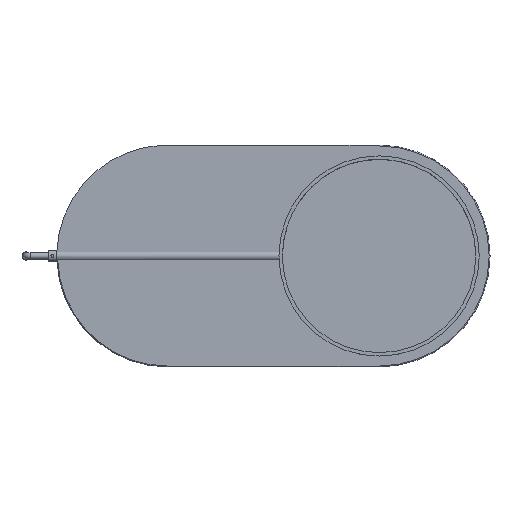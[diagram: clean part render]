
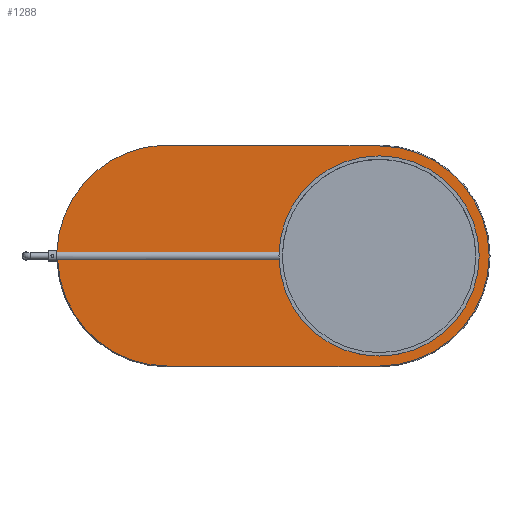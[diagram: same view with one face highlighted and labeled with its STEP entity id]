
A CAD part, top view. The second image highlights one B-rep face of the part: STEP entity #1288.
In plain terms, the highlighted planar face has unit normal (0, 0, 1).
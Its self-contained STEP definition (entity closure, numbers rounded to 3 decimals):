
#409=CARTESIAN_POINT('',(0.0,-255.,5.0));
#410=VERTEX_POINT('',#409);
#418=CARTESIAN_POINT('',(-490.,-255.,5.0));
#419=VERTEX_POINT('',#418);
#420=CARTESIAN_POINT('',(0.0,-255.,5.0));
#421=DIRECTION('',(-1.0,0.0,0.0));
#422=VECTOR('',#421,490.);
#423=LINE('',#420,#422);
#424=EDGE_CURVE('',#410,#419,#423,.T.);
#450=CARTESIAN_POINT('',(0.,255.,5.0));
#451=VERTEX_POINT('',#450);
#459=CARTESIAN_POINT('',(0.0,0.0,5.0));
#460=DIRECTION('',(0.0,0.0,-1.0));
#461=DIRECTION('',(1.0,0.0,0.0));
#462=AXIS2_PLACEMENT_3D('',#459,#460,#461);
#463=CIRCLE('',#462,255.);
#464=EDGE_CURVE('',#451,#410,#463,.T.);
#476=CARTESIAN_POINT('',(-744.722,-9.233,5.0));
#477=VERTEX_POINT('',#476);
#478=CARTESIAN_POINT('',(-489.886,0.003,5.0));
#479=DIRECTION('',(0.0,0.0,-1.));
#480=DIRECTION('',(-0.694,-0.72,0.0));
#481=AXIS2_PLACEMENT_3D('',#478,#479,#480);
#482=CIRCLE('',#481,255.003);
#483=EDGE_CURVE('',#419,#477,#482,.T.);
#510=CARTESIAN_POINT('',(-457.839,255.,5.0));
#511=VERTEX_POINT('',#510);
#545=CARTESIAN_POINT('',(-457.839,255.,5.0));
#546=DIRECTION('',(1.0,0.0,0.0));
#547=VECTOR('',#546,457.839);
#548=LINE('',#545,#547);
#549=EDGE_CURVE('',#511,#451,#548,.T.);
#1210=CARTESIAN_POINT('',(-225.811,-9.233,5.0));
#1211=VERTEX_POINT('',#1210);
#1212=CARTESIAN_POINT('',(-225.811,-9.233,5.0));
#1213=DIRECTION('',(-1.0,0.0,0.0));
#1214=VECTOR('',#1213,518.91);
#1215=LINE('',#1212,#1214);
#1216=EDGE_CURVE('',#1211,#477,#1215,.T.);
#1218=CARTESIAN_POINT('',(-225.811,9.233,5.0));
#1219=VERTEX_POINT('',#1218);
#1237=CARTESIAN_POINT('',(-746.723,9.233,5.0));
#1238=VERTEX_POINT('',#1237);
#1239=CARTESIAN_POINT('',(-746.723,9.233,5.0));
#1240=DIRECTION('',(1.0,0.0,0.0));
#1241=VECTOR('',#1240,520.912);
#1242=LINE('',#1239,#1241);
#1243=EDGE_CURVE('',#1238,#1219,#1242,.T.);
#1261=CARTESIAN_POINT('',(-244.92,-0.017,5.0));
#1262=DIRECTION('',(0.0,0.0,1.0));
#1263=DIRECTION('',(1.0,0.0,0.0));
#1264=AXIS2_PLACEMENT_3D('',#1261,#1262,#1263);
#1265=PLANE('',#1264);
#1266=CARTESIAN_POINT('',(-489.886,0.003,5.0));
#1267=DIRECTION('',(0.0,0.0,-1.));
#1268=DIRECTION('',(-0.007,-1.,0.0));
#1269=AXIS2_PLACEMENT_3D('',#1266,#1267,#1268);
#1270=CIRCLE('',#1269,257.003);
#1271=EDGE_CURVE('',#1238,#511,#1270,.T.);
#1272=ORIENTED_EDGE('',*,*,#1271,.F.);
#1273=ORIENTED_EDGE('',*,*,#1243,.T.);
#1274=CARTESIAN_POINT('',(0.0,0.0,5.0));
#1275=DIRECTION('',(0.0,0.0,1.0));
#1276=DIRECTION('',(-1.0,0.0,0.0));
#1277=AXIS2_PLACEMENT_3D('',#1274,#1275,#1276);
#1278=CIRCLE('',#1277,226.0);
#1279=EDGE_CURVE('',#1211,#1219,#1278,.T.);
#1280=ORIENTED_EDGE('',*,*,#1279,.F.);
#1281=ORIENTED_EDGE('',*,*,#1216,.T.);
#1282=ORIENTED_EDGE('',*,*,#483,.F.);
#1283=ORIENTED_EDGE('',*,*,#424,.F.);
#1284=ORIENTED_EDGE('',*,*,#464,.F.);
#1285=ORIENTED_EDGE('',*,*,#549,.F.);
#1286=EDGE_LOOP('',(#1272,#1273,#1280,#1281,#1282,#1283,#1284,#1285));
#1287=FACE_OUTER_BOUND('',#1286,.T.);
#1288=ADVANCED_FACE('',(#1287),#1265,.T.);
